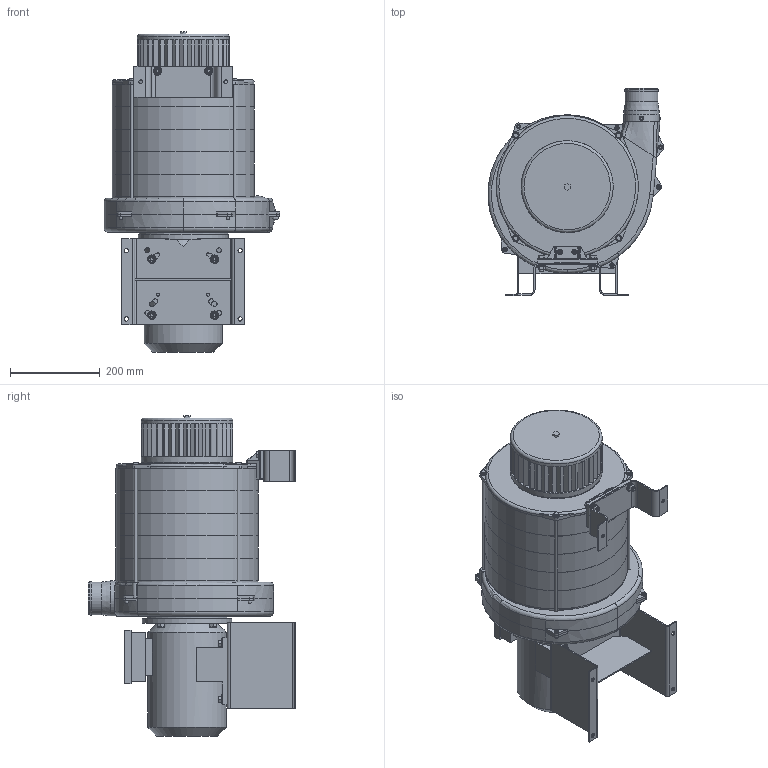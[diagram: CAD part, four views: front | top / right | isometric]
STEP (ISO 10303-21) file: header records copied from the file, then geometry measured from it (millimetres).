
FILE_DESCRIPTION(/* description */ (''),/* implementation_level */ '2;1');
FILE_NAME(/* name */ 'T:\Drawings\Standard Drawings\DATA Web Downloads\3D FILES\MS11-080 _ 3D11-0055.stp',/* time_stamp */ '2015-02-19T15:52:15+00:00',/* author */ ('mtinkler'),/* organization */ (''),/* preprocessor_version */ 'ST-DEVELOPER v15.6',/* originating_system */ 'Autodesk Inventor 2015',/* authorisation */ '');
FILE_SCHEMA (('AUTOMOTIVE_DESIGN { 1 0 10303 214 3 1 1 }'));
Products named in the file (1): 3D11-0055
Bounding box: 392.61 x 462.7 x 714.93 mm (x, y, z)
Volume: 15618682 mm3; surface area: 3649620.3 mm2
Topology: 87 solids, 87 shells, 2257 faces, 5472 edges, 3493 vertices
Faces by surface type: plane 1253, cylinder 438, cone 265, bspline 219, torus 79, sphere 3
Full cylindrical faces by diameter (mm): 4.134 x2, 4.8 x10, 4.917 x4, 5 x21, 5.6 x2, 6 x4, 6.647 x6, 7 x2, 7.938 x2, 8 x6, 8.2 x4, 8.376 x4, 8.9 x12, 9.5 x4, 9.75 x2, 10 x4, 11 x8, 18.8 x12, 19.5 x4, 42.85 x6, 71 x2, 73 x1, 76.4 x1, 78.4 x1, 88 x1, 130 x1, 131 x1, 175 x1, 200 x1, 205 x1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
Entity records: 77143 total; most frequent: CARTESIAN_POINT 26111, ORIENTED_EDGE 10294, DIRECTION 9246, EDGE_CURVE 5145, AXIS2_PLACEMENT_3D 3645, VERTEX_POINT 3447, EDGE_LOOP 2836, FACE_OUTER_BOUND 2257
